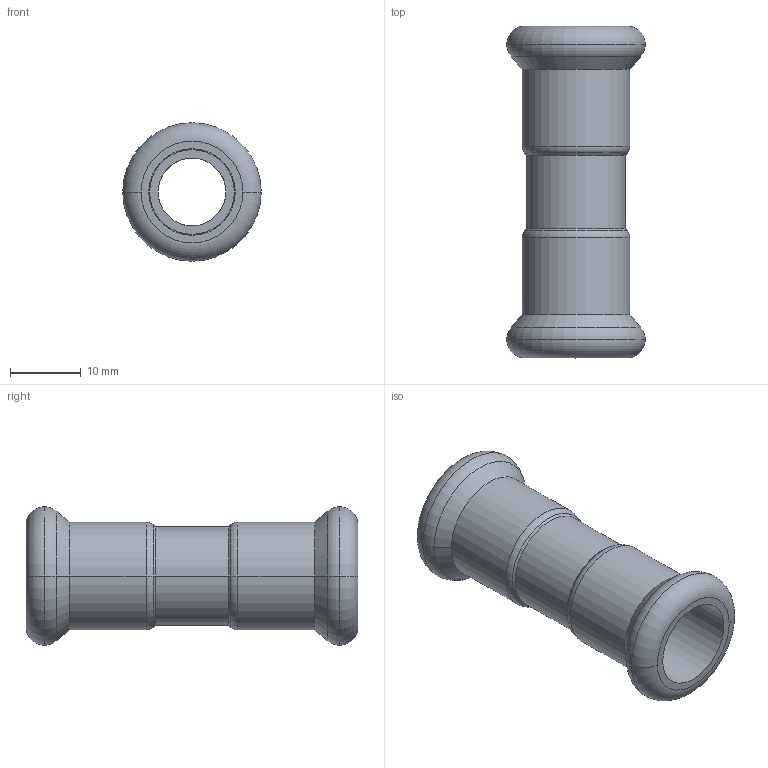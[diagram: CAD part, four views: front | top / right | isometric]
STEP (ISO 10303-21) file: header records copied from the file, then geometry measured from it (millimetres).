
FILE_DESCRIPTION(('CoCreate Modeling STEP Export'),'2;1');
FILE_NAME('C1401 12x12.stp','2014-11-06T16:43:26',(''),(''),'CoCreate Modeling STEP processor for AP214 (Solid Model)','CoCreate Modeling 17.00A 17-Jun-2010 (C) Parametric Technology GmbH','');
FILE_SCHEMA(('AUTOMOTIVE_DESIGN { 1 0 10303 214 1 1 1 1 }'));
Length unit declared in the file: millimetre
Products named in the file (2): C1401_12x12
Assembly tree (1 placements, depth 2):
  C1401_12x12
    C1401_12x12
Bounding box: 19.6 x 47 x 19.6 mm (x, y, z)
Volume: 4268.7 mm3; surface area: 4524.6 mm2
Topology: 1 solids, 1 shells, 42 faces, 86 edges, 50 vertices
Faces by surface type: cylinder 16, torus 12, cone 8, plane 6
Entity records: 935 total; most frequent: ORIENTED_EDGE 172, DIRECTION 144, CARTESIAN_POINT 134, EDGE_CURVE 86, AXIS2_PLACEMENT_3D 60, VERTEX_POINT 50, EDGE_LOOP 48, FACE_OUTER_BOUND 42
